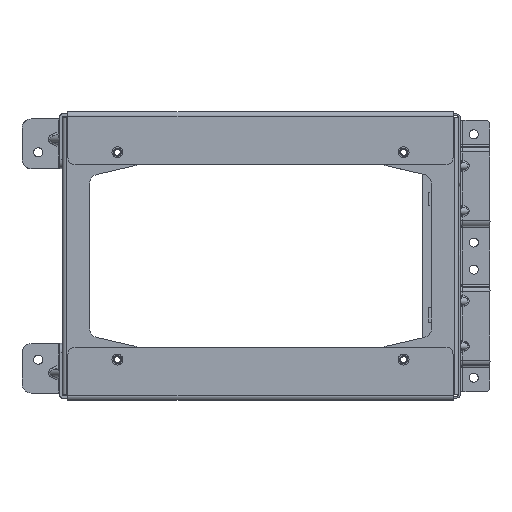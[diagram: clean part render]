
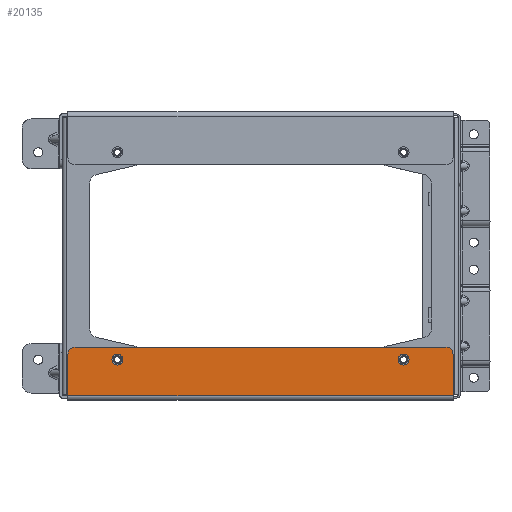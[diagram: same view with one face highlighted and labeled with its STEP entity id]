
A CAD part, top view. The second image highlights one B-rep face of the part: STEP entity #20135.
In plain terms, the highlighted planar face has unit normal (0, 0, 1).
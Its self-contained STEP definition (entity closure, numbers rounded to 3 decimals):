
#20053=AXIS2_PLACEMENT_3D('Plane Axis2P3D',#20050,#20051,#20052) ;
#20057=AXIS2_PLACEMENT_3D('Circle Axis2P3D',#20055,#20056,$) ;
#20101=AXIS2_PLACEMENT_3D('Circle Axis2P3D',#20099,#20100,$) ;
#20110=AXIS2_PLACEMENT_3D('Circle Axis2P3D',#20108,#20109,$) ;
#20119=AXIS2_PLACEMENT_3D('Circle Axis2P3D',#20117,#20118,$) ;
#20128=AXIS2_PLACEMENT_3D('Circle Axis2P3D',#20126,#20127,$) ;
#19540=CARTESIAN_POINT('Line Origine',(1467.999,-716.999,84.)) ;
#19544=CARTESIAN_POINT('Vertex',(1467.999,-739.999,84.)) ;
#19546=CARTESIAN_POINT('Vertex',(1467.999,-693.999,84.)) ;
#19882=CARTESIAN_POINT('Vertex',(1040.999,-693.999,84.)) ;
#19966=CARTESIAN_POINT('Vertex',(1040.999,-739.999,84.)) ;
#19969=CARTESIAN_POINT('Line Origine',(1040.999,-716.999,84.)) ;
#20050=CARTESIAN_POINT('Axis2P3D Location',(1040.999,-744.999,84.)) ;
#20055=CARTESIAN_POINT('Axis2P3D Location',(1048.999,-693.999,84.)) ;
#20059=CARTESIAN_POINT('Vertex',(1048.999,-685.999,84.)) ;
#20062=CARTESIAN_POINT('Line Origine',(1254.499,-739.999,84.)) ;
#20068=CARTESIAN_POINT('Control Point',(1459.999,-685.999,84.)) ;
#20069=CARTESIAN_POINT('Control Point',(1460.83,-685.999,84.)) ;
#20070=CARTESIAN_POINT('Control Point',(1461.661,-686.107,84.)) ;
#20071=CARTESIAN_POINT('Control Point',(1462.475,-686.323,84.)) ;
#20072=CARTESIAN_POINT('Control Point',(1464.025,-686.961,84.)) ;
#20073=CARTESIAN_POINT('Control Point',(1465.36,-687.974,84.)) ;
#20074=CARTESIAN_POINT('Control Point',(1465.959,-688.565,84.)) ;
#20075=CARTESIAN_POINT('Control Point',(1466.988,-689.889,84.)) ;
#20076=CARTESIAN_POINT('Control Point',(1467.645,-691.431,84.)) ;
#20077=CARTESIAN_POINT('Control Point',(1467.871,-692.242,84.)) ;
#20078=CARTESIAN_POINT('Control Point',(1467.991,-693.091,84.)) ;
#20079=CARTESIAN_POINT('Control Point',(1467.999,-693.941,84.)) ;
#20080=CARTESIAN_POINT('Control Point',(1467.999,-693.96,84.)) ;
#20081=CARTESIAN_POINT('Control Point',(1467.999,-693.98,84.)) ;
#20082=CARTESIAN_POINT('Control Point',(1467.999,-693.999,84.)) ;
#20083=CARTESIAN_POINT('Vertex',(1459.999,-685.999,84.)) ;
#20086=CARTESIAN_POINT('Line Origine',(1254.499,-685.999,84.)) ;
#20099=CARTESIAN_POINT('Axis2P3D Location',(1095.716,-699.996,84.)) ;
#20103=CARTESIAN_POINT('Vertex',(1089.716,-699.996,84.)) ;
#20105=CARTESIAN_POINT('Vertex',(1101.716,-699.996,84.)) ;
#20108=CARTESIAN_POINT('Axis2P3D Location',(1095.716,-699.996,84.)) ;
#20117=CARTESIAN_POINT('Axis2P3D Location',(1413.216,-699.998,84.)) ;
#20121=CARTESIAN_POINT('Vertex',(1407.216,-699.998,84.)) ;
#20123=CARTESIAN_POINT('Vertex',(1419.216,-699.998,84.)) ;
#20126=CARTESIAN_POINT('Axis2P3D Location',(1413.216,-699.998,84.)) ;
#19541=DIRECTION('Vector Direction',(0.,1.,0.)) ;
#19970=DIRECTION('Vector Direction',(0.,1.,0.)) ;
#20051=DIRECTION('Axis2P3D Direction',(0.,0.,1.)) ;
#20052=DIRECTION('Axis2P3D XDirection',(1.,0.,0.)) ;
#20056=DIRECTION('Axis2P3D Direction',(0.,0.,1.)) ;
#20063=DIRECTION('Vector Direction',(1.,0.,0.)) ;
#20087=DIRECTION('Vector Direction',(1.,0.,0.)) ;
#20100=DIRECTION('Axis2P3D Direction',(0.,0.,1.)) ;
#20109=DIRECTION('Axis2P3D Direction',(0.,0.,1.)) ;
#20118=DIRECTION('Axis2P3D Direction',(0.,0.,1.)) ;
#20127=DIRECTION('Axis2P3D Direction',(0.,0.,1.)) ;
#19542=VECTOR('Line Direction',#19541,1.) ;
#19971=VECTOR('Line Direction',#19970,1.) ;
#20064=VECTOR('Line Direction',#20063,1.) ;
#20088=VECTOR('Line Direction',#20087,1.) ;
#20092=ORIENTED_EDGE('',*,*,#20061,.F.) ;
#20093=ORIENTED_EDGE('',*,*,#19973,.F.) ;
#20094=ORIENTED_EDGE('',*,*,#20066,.T.) ;
#20095=ORIENTED_EDGE('',*,*,#19548,.T.) ;
#20096=ORIENTED_EDGE('',*,*,#20085,.T.) ;
#20097=ORIENTED_EDGE('',*,*,#20090,.F.) ;
#20114=ORIENTED_EDGE('',*,*,#20107,.F.) ;
#20115=ORIENTED_EDGE('',*,*,#20112,.F.) ;
#20132=ORIENTED_EDGE('',*,*,#20125,.F.) ;
#20133=ORIENTED_EDGE('',*,*,#20130,.F.) ;
#20116=FACE_BOUND('',#20113,.T.) ;
#20134=FACE_BOUND('',#20131,.T.) ;
#20135=ADVANCED_FACE('interface-2.2.1\\\X2\51E04F554F53\X0\.38',(#20098,#20116,#20134),#20054,.T.) ;
#20067=B_SPLINE_CURVE_WITH_KNOTS('',5,(#20068,#20069,#20070,#20071,#20072,#20073,#20074,#20075,#20076,#20077,#20078,#20079,#20080,#20081,#20082),.UNSPECIFIED.,.F.,.U.,(6,3,3,3,6),(0.,5.894,11.788,17.682,17.818),.UNSPECIFIED.) ;
#20058=CIRCLE('generated circle',#20057,8.) ;
#20102=CIRCLE('generated circle',#20101,6.) ;
#20111=CIRCLE('generated circle',#20110,6.) ;
#20120=CIRCLE('generated circle',#20119,6.) ;
#20129=CIRCLE('generated circle',#20128,6.) ;
#19548=EDGE_CURVE('',#19545,#19547,#19543,.T.) ;
#19973=EDGE_CURVE('',#19967,#19883,#19972,.T.) ;
#20061=EDGE_CURVE('',#19883,#20060,#20058,.F.) ;
#20066=EDGE_CURVE('',#19967,#19545,#20065,.T.) ;
#20085=EDGE_CURVE('',#19547,#20084,#20067,.F.) ;
#20090=EDGE_CURVE('',#20060,#20084,#20089,.T.) ;
#20107=EDGE_CURVE('',#20104,#20106,#20102,.T.) ;
#20112=EDGE_CURVE('',#20106,#20104,#20111,.T.) ;
#20125=EDGE_CURVE('',#20122,#20124,#20120,.T.) ;
#20130=EDGE_CURVE('',#20124,#20122,#20129,.T.) ;
#20091=EDGE_LOOP('',(#20092,#20093,#20094,#20095,#20096,#20097)) ;
#20113=EDGE_LOOP('',(#20114,#20115)) ;
#20131=EDGE_LOOP('',(#20132,#20133)) ;
#20098=FACE_OUTER_BOUND('',#20091,.T.) ;
#19543=LINE('Line',#19540,#19542) ;
#19972=LINE('Line',#19969,#19971) ;
#20065=LINE('Line',#20062,#20064) ;
#20089=LINE('Line',#20086,#20088) ;
#20054=PLANE('Plane',#20053) ;
#19545=VERTEX_POINT('',#19544) ;
#19547=VERTEX_POINT('',#19546) ;
#19883=VERTEX_POINT('',#19882) ;
#19967=VERTEX_POINT('',#19966) ;
#20060=VERTEX_POINT('',#20059) ;
#20084=VERTEX_POINT('',#20083) ;
#20104=VERTEX_POINT('',#20103) ;
#20106=VERTEX_POINT('',#20105) ;
#20122=VERTEX_POINT('',#20121) ;
#20124=VERTEX_POINT('',#20123) ;
